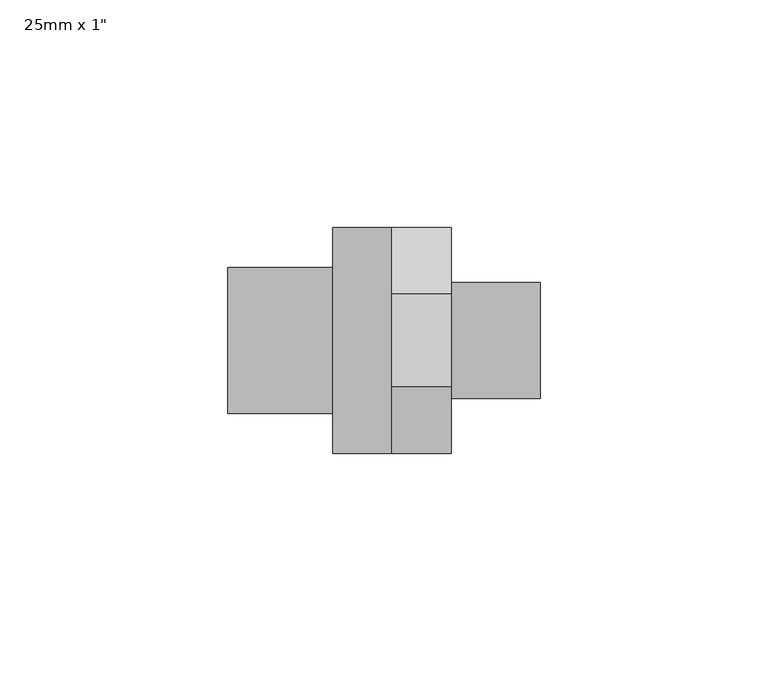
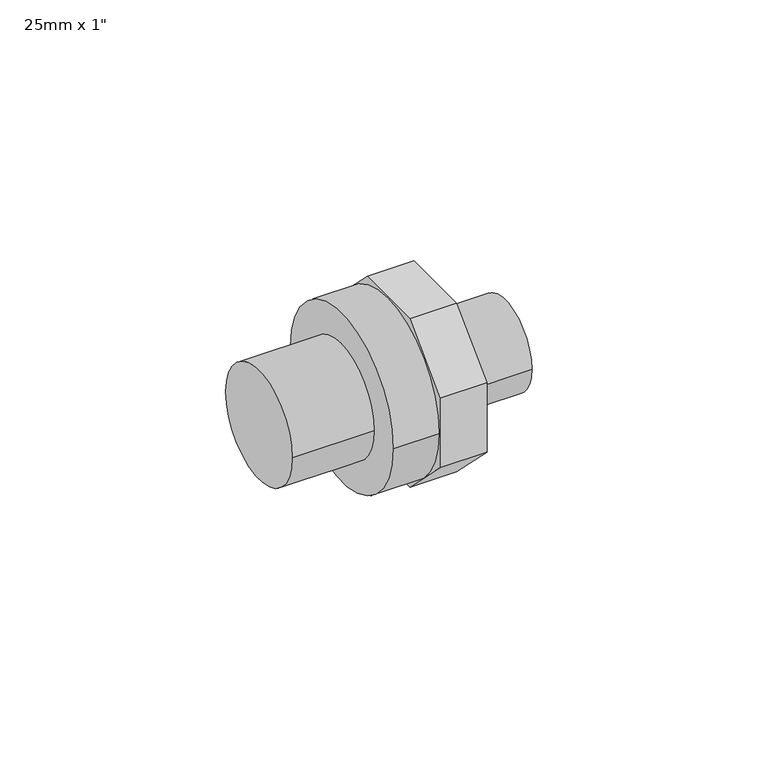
"""IFC4 building model written with IfcOpenShell, lengths in millimetres: pipe fitting geometry."""

from ifc_helpers import new_model, si_unit, point, frame, origin, origin_2d, place, context, project, spatial, polyline, circle_curve, trimmed, segment, composite_curve, outline, extrude, source, transform, mapped, element, save


def pipe_fitting_ca401f2f(model_context):
    return source(origin(), model_context, "Body", "SweptSolid", [
        extrude(outline(composite_curve([segment(trimmed(circle_curve(origin_2d(), 12.7), [point((-12.7, 0.0))], [point((12.7, 0.0))], False, "CARTESIAN"), True, "CONTINUOUS"), segment(trimmed(circle_curve(origin_2d(), 12.7), [point((12.7, 0.0))], [point((-12.7, 0.0))], False, "CARTESIAN"), True, "CONTINUOUS")], self_intersect=False)), frame((37.5, 0.0, 0.0), z_axis=(1.0, 0.0, 0.0), x_axis=(0.0, 1.0, 0.0)), (0.0, 0.0, 1.0), 19.5),
        extrude(outline(polyline([(10.2517857, 24.75), (24.75, 10.2517857), (24.75, -10.2517857), (10.2517857, -24.75), (-10.2517857, -24.75), (-24.75, -10.2517857), (-24.75, 10.2517857), (-10.2517857, 24.75), (10.2517857, 24.75)])), frame((24.5, 0.0, 0.0), z_axis=(1.0, 0.0, 0.0), x_axis=(0.0, 1.0, 0.0)), (0.0, 0.0, 1.0), 13.0),
        extrude(outline(composite_curve([segment(trimmed(circle_curve(origin_2d(), 24.75), [point((-24.75, 0.0))], [point((24.75, 0.0))], False, "CARTESIAN"), True, "CONTINUOUS"), segment(trimmed(circle_curve(origin_2d(), 24.75), [point((24.75, 0.0))], [point((-24.75, 0.0))], False, "CARTESIAN"), True, "CONTINUOUS")], self_intersect=False)), frame((11.5, 0.0, 0.0), z_axis=(1.0, 0.0, 0.0), x_axis=(0.0, 1.0, 0.0)), (0.0, 0.0, 1.0), 13.0),
        extrude(outline(composite_curve([segment(trimmed(circle_curve(origin_2d(), 16.0), [point((-16.0, 0.0))], [point((16.0, 0.0))], False, "CARTESIAN"), True, "CONTINUOUS"), segment(trimmed(circle_curve(origin_2d(), 16.0), [point((16.0, 0.0))], [point((-16.0, 0.0))], False, "CARTESIAN"), True, "CONTINUOUS")], self_intersect=False)), frame((-11.5, 0.0, 0.0), z_axis=(1.0, 0.0, 0.0), x_axis=(0.0, 1.0, 0.0)), (0.0, 0.0, 1.0), 23.0),
    ])


if __name__ == "__main__":
    model = new_model("IFC4")
    model_context = context("Model", 3, world=origin())
    ifc_project = project(units=[si_unit("LENGTHUNIT", "METRE", prefix="MILLI")], contexts=[model_context])
    site = spatial("IfcSite", under=ifc_project)
    building = spatial("IfcBuilding", under=site)
    placement = place(None, origin())
    pipe_fitting_shape = pipe_fitting_ca401f2f(model_context)
    element("IfcPipeFitting", 1, ObjectType="PipeFitting_HTA_CPVC_AdaptorNipplesB : 25mm x 1\"", at=placement, inside=building, context=model_context, shape_type="MappedRepresentation", body=[
        mapped(pipe_fitting_shape, transform((0.0, 0.0, 0.0), x_axis=(1.0, 0.0, 0.0), y_axis=(0.0, 1.0, 0.0), z_axis=(0.0, 0.0, 1.0))),
    ])
    save(model, "model.ifc")
